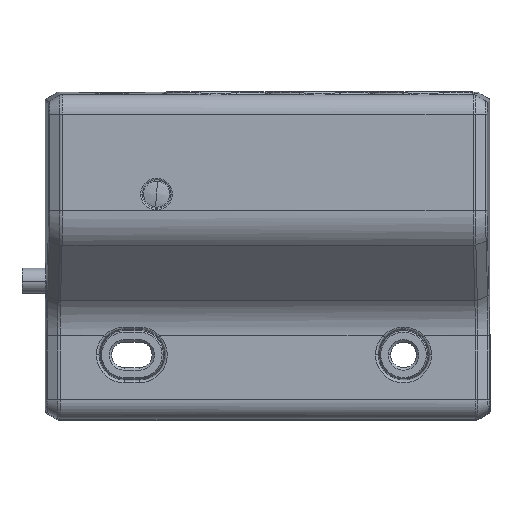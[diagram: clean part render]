
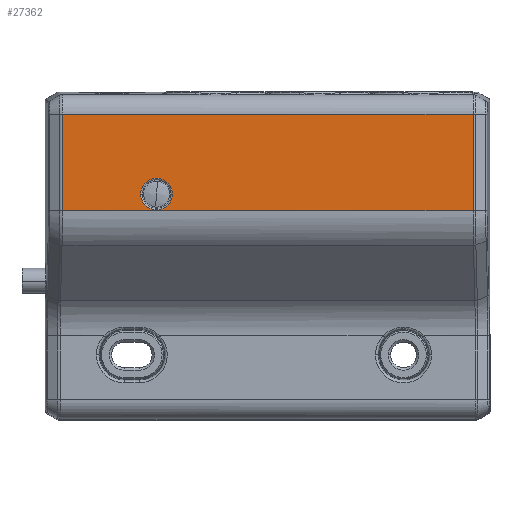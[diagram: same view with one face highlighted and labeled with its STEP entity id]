
A CAD part, top view. The second image highlights one B-rep face of the part: STEP entity #27362.
In plain terms, the highlighted planar face has unit normal (0, 0, 1).
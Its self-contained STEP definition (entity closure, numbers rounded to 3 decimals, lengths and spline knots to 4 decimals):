
#1376 = CARTESIAN_POINT ( 'NONE',  ( -1.7459, 1.1279, 0.9843 ) ) ;
#4018 = AXIS2_PLACEMENT_3D ( 'NONE', #40576, #20262, #36323 ) ;
#5668 = FACE_OUTER_BOUND ( 'NONE', #33549, .T. ) ;
#6462 = ORIENTED_EDGE ( 'NONE', *, *, #50740, .T. ) ;
#6774 = LINE ( 'NONE', #10938, #35195 ) ;
#8863 = CARTESIAN_POINT ( 'NONE',  ( 1.6369, 0.3599, 0.9843 ) ) ;
#8920 = DIRECTION ( 'NONE',  ( 1., 0., 0. ) ) ;
#8995 = CARTESIAN_POINT ( 'NONE',  ( -1.0118, 0.4921, 0.9843 ) ) ;
#10293 = CIRCLE ( 'NONE', #10989, 0.126 ) ;
#10334 = EDGE_LOOP ( 'NONE', ( #52127, #10432 ) ) ;
#10432 = ORIENTED_EDGE ( 'NONE', *, *, #32026, .T. ) ;
#10625 = PLANE ( 'NONE',  #22954 ) ;
#10938 = CARTESIAN_POINT ( 'NONE',  ( 1.6369, -1.3071, 0.9843 ) ) ;
#10989 = AXIS2_PLACEMENT_3D ( 'NONE', #20418, #13157, #8920 ) ;
#11159 = EDGE_CURVE ( 'NONE', #46561, #34689, #6774, .T. ) ;
#11926 = CARTESIAN_POINT ( 'NONE',  ( -1.6369, 1.1279, 0.9843 ) ) ;
#12814 = CARTESIAN_POINT ( 'NONE',  ( 1.7459, 0.3599, 0.9843 ) ) ;
#13157 = DIRECTION ( 'NONE',  ( 0., 0., -1. ) ) ;
#13352 = VERTEX_POINT ( 'NONE', #31270 ) ;
#13392 = EDGE_CURVE ( 'NONE', #14076, #13352, #17372, .T. ) ;
#14076 = VERTEX_POINT ( 'NONE', #11926 ) ;
#14678 = CARTESIAN_POINT ( 'NONE',  ( -1.7717, -1.3071, 0.9843 ) ) ;
#17325 = VECTOR ( 'NONE', #44673, 39.3701 ) ;
#17372 = LINE ( 'NONE', #48587, #17325 ) ;
#20262 = DIRECTION ( 'NONE',  ( 0., 0., -1. ) ) ;
#20418 = CARTESIAN_POINT ( 'NONE',  ( -0.8858, 0.4921, 0.9843 ) ) ;
#22954 = AXIS2_PLACEMENT_3D ( 'NONE', #14678, #42949, #26197 ) ;
#23507 = VECTOR ( 'NONE', #28744, 39.3701 ) ;
#26197 = DIRECTION ( 'NONE',  ( 1., 0., 0. ) ) ;
#27219 = DIRECTION ( 'NONE',  ( 0., 1., 0. ) ) ;
#27362 = ADVANCED_FACE ( 'NONE', ( #44828, #5668 ), #10625, .T. ) ;
#27797 = EDGE_CURVE ( 'NONE', #47687, #44025, #29633, .T. ) ;
#28744 = DIRECTION ( 'NONE',  ( 1., 0., 0. ) ) ;
#29633 = CIRCLE ( 'NONE', #4018, 0.126 ) ;
#31270 = CARTESIAN_POINT ( 'NONE',  ( -1.6369, 0.3599, 0.9843 ) ) ;
#31394 = ORIENTED_EDGE ( 'NONE', *, *, #44322, .T. ) ;
#32026 = EDGE_CURVE ( 'NONE', #44025, #47687, #10293, .T. ) ;
#32992 = LINE ( 'NONE', #12814, #23507 ) ;
#33176 = DIRECTION ( 'NONE',  ( -1., 0., 0. ) ) ;
#33549 = EDGE_LOOP ( 'NONE', ( #31394, #35512, #6462, #49311 ) ) ;
#34689 = VERTEX_POINT ( 'NONE', #42094 ) ;
#35195 = VECTOR ( 'NONE', #27219, 39.3701 ) ;
#35512 = ORIENTED_EDGE ( 'NONE', *, *, #11159, .T. ) ;
#36323 = DIRECTION ( 'NONE',  ( 1., 0., 0. ) ) ;
#40576 = CARTESIAN_POINT ( 'NONE',  ( -0.8858, 0.4921, 0.9843 ) ) ;
#42094 = CARTESIAN_POINT ( 'NONE',  ( 1.6369, 1.1279, 0.9843 ) ) ;
#42949 = DIRECTION ( 'NONE',  ( 0., 0., 1. ) ) ;
#44025 = VERTEX_POINT ( 'NONE', #8995 ) ;
#44322 = EDGE_CURVE ( 'NONE', #13352, #46561, #32992, .T. ) ;
#44673 = DIRECTION ( 'NONE',  ( 0., -1., 0. ) ) ;
#44828 = FACE_BOUND ( 'NONE', #10334, .T. ) ;
#46561 = VERTEX_POINT ( 'NONE', #8863 ) ;
#46981 = LINE ( 'NONE', #1376, #49536 ) ;
#47687 = VERTEX_POINT ( 'NONE', #49463 ) ;
#48587 = CARTESIAN_POINT ( 'NONE',  ( -1.6369, -1.3071, 0.9843 ) ) ;
#49311 = ORIENTED_EDGE ( 'NONE', *, *, #13392, .T. ) ;
#49463 = CARTESIAN_POINT ( 'NONE',  ( -0.7598, 0.4921, 0.9843 ) ) ;
#49536 = VECTOR ( 'NONE', #33176, 39.3701 ) ;
#50740 = EDGE_CURVE ( 'NONE', #34689, #14076, #46981, .T. ) ;
#52127 = ORIENTED_EDGE ( 'NONE', *, *, #27797, .T. ) ;
